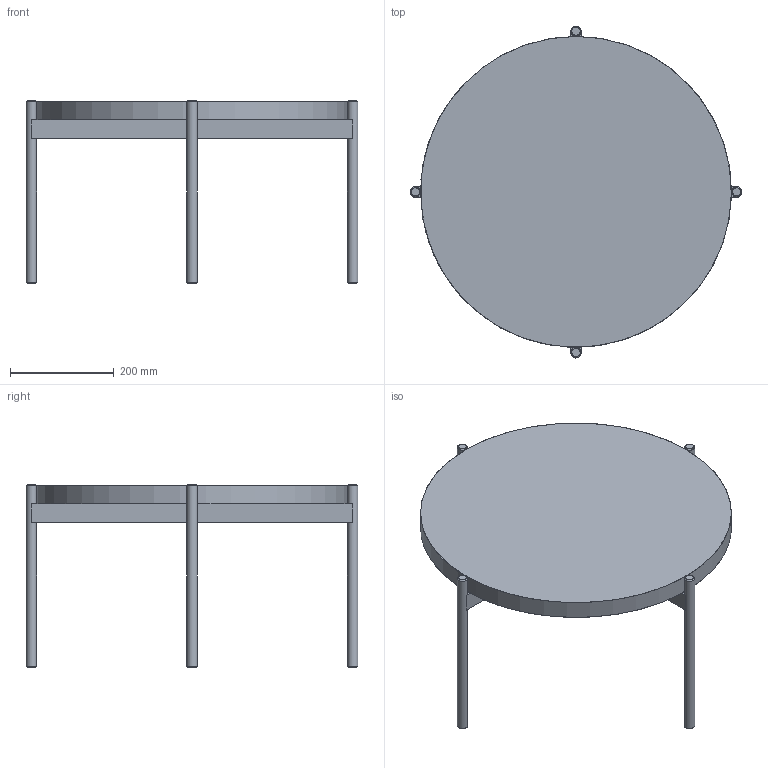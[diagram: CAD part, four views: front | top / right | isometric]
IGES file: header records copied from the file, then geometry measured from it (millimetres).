
Global section: file name: \\server2\Datos\PROYECTOS\2022\DOOS - Stand Feria H; native system: Rhinoceros ( Nov 10 2020 ); preprocessor: Trout Lake IGES 012 Nov 10 2020; date: 220818.060332; units: millimetre
Bounding box: 640 x 640 x 352 mm (x, y, z)
Surface area: 861280.9 mm2 (no closed solid volume)
Topology: 0 solids, 0 shells, 35 faces, 131 edges, 118 vertices
Faces by surface type: bspline 35
